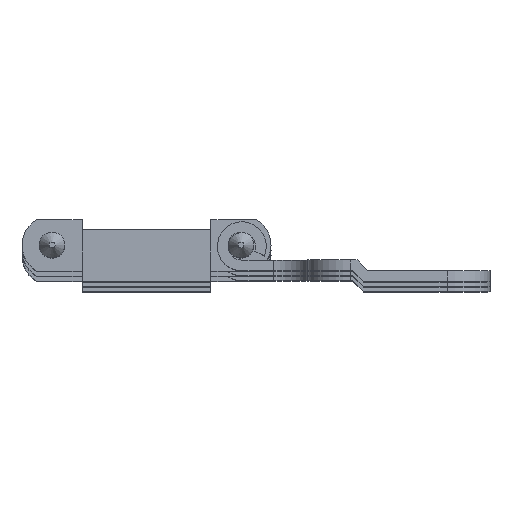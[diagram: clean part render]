
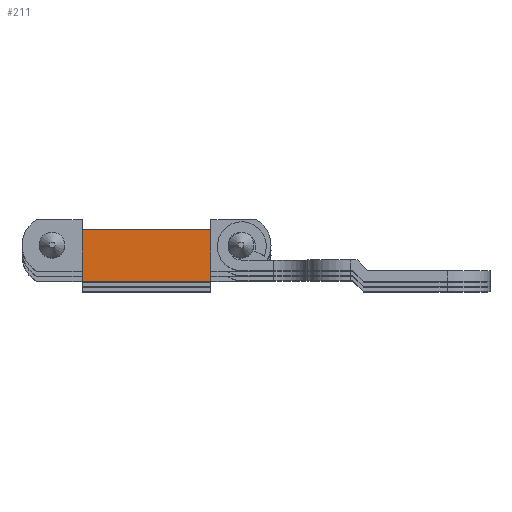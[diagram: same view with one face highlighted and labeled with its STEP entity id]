
A CAD part, top view. The second image highlights one B-rep face of the part: STEP entity #211.
In plain terms, the highlighted planar face has unit normal (0, 0, 1).
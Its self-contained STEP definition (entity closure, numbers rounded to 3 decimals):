
#211 = ADVANCED_FACE( '', ( #425 ), #426, .T. );
#425 = FACE_OUTER_BOUND( '', #674, .T. );
#426 = PLANE( '', #675 );
#674 = EDGE_LOOP( '', ( #1025, #1026, #1027, #1028 ) );
#675 = AXIS2_PLACEMENT_3D( '', #1029, #1030, #1031 );
#1025 = ORIENTED_EDGE( '', *, *, #1586, .F. );
#1026 = ORIENTED_EDGE( '', *, *, #1570, .F. );
#1027 = ORIENTED_EDGE( '', *, *, #1519, .T. );
#1028 = ORIENTED_EDGE( '', *, *, #1587, .T. );
#1029 = CARTESIAN_POINT( '', ( -7.5, -6., 41. ) );
#1030 = DIRECTION( '', ( 0., 0., 1. ) );
#1031 = DIRECTION( '', ( 1., 0., 0. ) );
#1519 = EDGE_CURVE( '', #1793, #1791, #1794, .T. );
#1570 = EDGE_CURVE( '', #1793, #1871, #1878, .T. );
#1586 = EDGE_CURVE( '', #1871, #1902, #1903, .T. );
#1587 = EDGE_CURVE( '', #1791, #1902, #1904, .T. );
#1791 = VERTEX_POINT( '', #2180 );
#1793 = VERTEX_POINT( '', #2183 );
#1794 = LINE( '', #2184, #2185 );
#1871 = VERTEX_POINT( '', #2287 );
#1878 = LINE( '', #2298, #2299 );
#1902 = VERTEX_POINT( '', #2331 );
#1903 = LINE( '', #2332, #2333 );
#1904 = LINE( '', #2334, #2335 );
#2180 = CARTESIAN_POINT( '', ( 7.5, -6., 41. ) );
#2183 = CARTESIAN_POINT( '', ( -7.5, -6., 41. ) );
#2184 = CARTESIAN_POINT( '', ( -7.5, -6., 41. ) );
#2185 = VECTOR( '', #2633, 1000. );
#2287 = CARTESIAN_POINT( '', ( -7.5, 0., 41. ) );
#2298 = CARTESIAN_POINT( '', ( -7.5, -6., 41. ) );
#2299 = VECTOR( '', #2699, 1000. );
#2331 = CARTESIAN_POINT( '', ( 7.5, 0., 41. ) );
#2332 = CARTESIAN_POINT( '', ( -7.5, 0., 41. ) );
#2333 = VECTOR( '', #2717, 1000. );
#2334 = CARTESIAN_POINT( '', ( 7.5, -6., 41. ) );
#2335 = VECTOR( '', #2718, 1000. );
#2633 = DIRECTION( '', ( 1., 0., 0. ) );
#2699 = DIRECTION( '', ( 0., 1., 0. ) );
#2717 = DIRECTION( '', ( 1., 0., 0. ) );
#2718 = DIRECTION( '', ( 0., 1., 0. ) );
